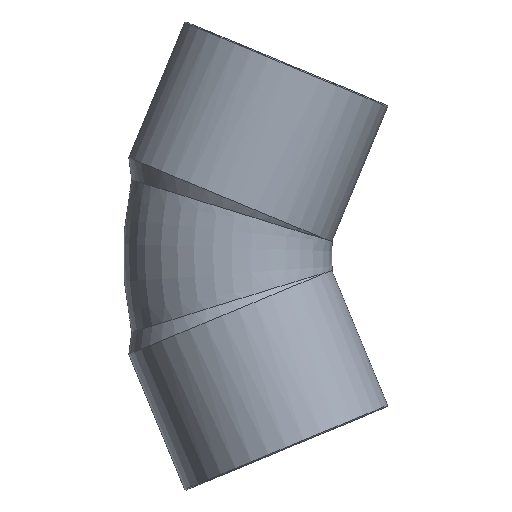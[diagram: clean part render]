
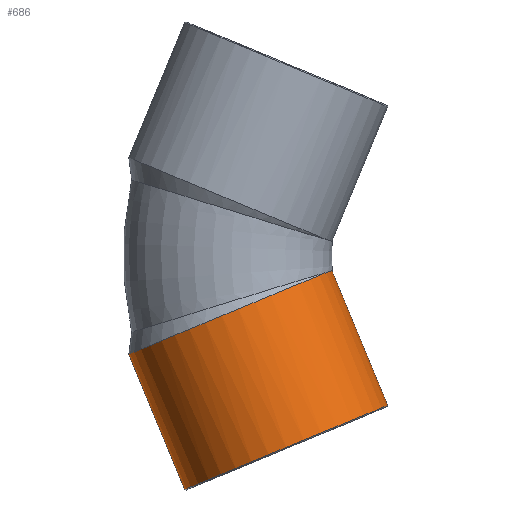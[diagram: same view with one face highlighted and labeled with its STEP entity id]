
A CAD part, front view. The second image highlights one B-rep face of the part: STEP entity #686.
In plain terms, the highlighted cylindrical face has radius 21.1 mm (diameter 42.2 mm), a partial arc.
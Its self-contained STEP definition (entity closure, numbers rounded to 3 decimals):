
#60=CARTESIAN_POINT('',(-24.612,-6.88,-3.181));
#61=VERTEX_POINT('',#60);
#295=CARTESIAN_POINT('',(-62.534,0.,-18.889));
#296=VERTEX_POINT('',#295);
#303=CARTESIAN_POINT('',(-43.04,0.,-10.814));
#304=DIRECTION('',(-0.383,0.,0.924));
#305=DIRECTION('',(0.924,0.,0.383));
#306=AXIS2_PLACEMENT_3D('',#303,#304,#305);
#307=CIRCLE('',#306,21.1);
#308=EDGE_CURVE('',#296,#61,#307,.T.);
#458=CARTESIAN_POINT('',(-23.547,0.,-2.74));
#459=VERTEX_POINT('',#458);
#467=CARTESIAN_POINT('',(-43.04,0.,-10.814));
#468=DIRECTION('',(-0.383,0.,0.924));
#469=DIRECTION('',(0.924,0.,0.383));
#470=AXIS2_PLACEMENT_3D('',#467,#468,#469);
#471=CIRCLE('',#470,21.1);
#472=EDGE_CURVE('',#61,#459,#471,.T.);
#654=CARTESIAN_POINT('',(-42.928,0.,-11.087));
#655=DIRECTION('',(0.383,0.,-0.924));
#656=DIRECTION('',(0.924,0.,0.383));
#657=AXIS2_PLACEMENT_3D('',#654,#655,#656);
#658=CYLINDRICAL_SURFACE('',#657,21.1);
#659=CARTESIAN_POINT('',(-12.795,0.,-28.696));
#660=VERTEX_POINT('',#659);
#661=CARTESIAN_POINT('',(-23.547,0.,-2.74));
#662=DIRECTION('',(0.383,0.,-0.924));
#663=VECTOR('',#662,28.095);
#664=LINE('',#661,#663);
#665=EDGE_CURVE('',#459,#660,#664,.T.);
#666=ORIENTED_EDGE('',*,*,#665,.F.);
#667=ORIENTED_EDGE('',*,*,#472,.F.);
#668=ORIENTED_EDGE('',*,*,#308,.F.);
#669=CARTESIAN_POINT('',(-51.783,0.,-44.845));
#670=VERTEX_POINT('',#669);
#671=CARTESIAN_POINT('',(-51.783,0.,-44.845));
#672=DIRECTION('',(-0.383,0.,0.924));
#673=VECTOR('',#672,28.095);
#674=LINE('',#671,#673);
#675=EDGE_CURVE('',#670,#296,#674,.T.);
#676=ORIENTED_EDGE('',*,*,#675,.F.);
#677=CARTESIAN_POINT('',(-32.289,0.,-36.77));
#678=DIRECTION('',(0.383,0.,-0.924));
#679=DIRECTION('',(0.924,0.,0.383));
#680=AXIS2_PLACEMENT_3D('',#677,#678,#679);
#681=CIRCLE('',#680,21.1);
#682=EDGE_CURVE('',#660,#670,#681,.T.);
#683=ORIENTED_EDGE('',*,*,#682,.F.);
#684=EDGE_LOOP('',(#666,#667,#668,#676,#683));
#685=FACE_OUTER_BOUND('',#684,.T.);
#686=ADVANCED_FACE('',(#685),#658,.T.);
